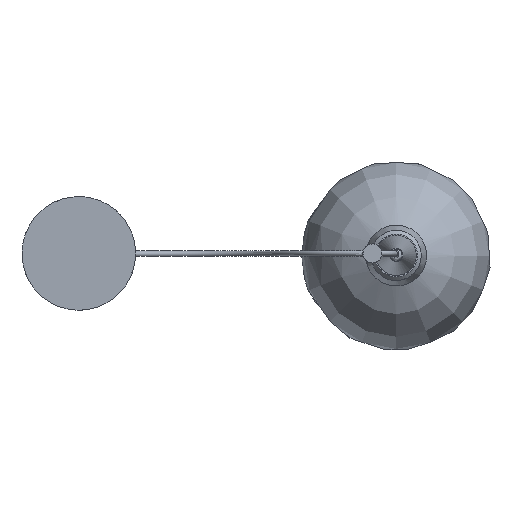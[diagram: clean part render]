
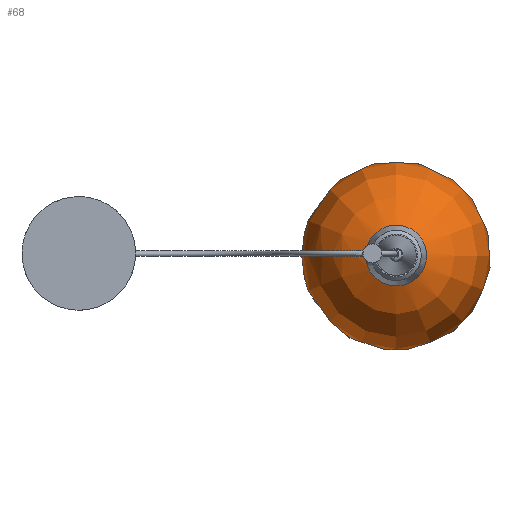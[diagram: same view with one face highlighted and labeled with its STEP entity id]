
A CAD part, top view. The second image highlights one B-rep face of the part: STEP entity #68.
In plain terms, the highlighted free-form (B-spline) face has degree [2, 2] with [5, 9] control points.
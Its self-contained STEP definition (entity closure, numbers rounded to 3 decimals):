
#42=(
BOUNDED_SURFACE()
B_SPLINE_SURFACE(2,2,((#746,#747,#748,#749,#750,#751,#752,#753,#754),(#755,
#756,#757,#758,#759,#760,#761,#762,#763),(#764,#765,#766,#767,#768,#769,
#770,#771,#772),(#773,#774,#775,#776,#777,#778,#779,#780,#781),(#782,#783,
#784,#785,#786,#787,#788,#789,#790)),.UNSPECIFIED.,.F.,.F.,.F.)
B_SPLINE_SURFACE_WITH_KNOTS((3,2,3),(3,2,2,2,3),(-281.447,-140.723,
0.),(0.,157.072,314.144,471.217,628.289),
 .UNSPECIFIED.)
GEOMETRIC_REPRESENTATION_ITEM()
RATIONAL_B_SPLINE_SURFACE(((1.,0.707,1.,0.707,1.,
0.707,1.,0.707,1.),(0.763,0.539,
0.763,0.539,0.763,0.539,
0.763,0.539,0.763),(1.,0.707,
1.,0.707,1.,0.707,1.,0.707,1.),(0.763,
0.539,0.763,0.539,0.763,
0.539,0.763,0.539,0.763),
(1.,0.707,1.,0.707,1.,0.707,1.,0.707,
1.)))
REPRESENTATION_ITEM('')
SURFACE()
);
#68=ADVANCED_FACE('',(#94),#42,.T.);
#94=FACE_OUTER_BOUND('',#120,.T.);
#120=EDGE_LOOP('',(#165,#166,#167));
#165=ORIENTED_EDGE('',*,*,#241,.T.);
#166=ORIENTED_EDGE('',*,*,#237,.F.);
#167=ORIENTED_EDGE('',*,*,#237,.T.);
#237=EDGE_CURVE('',#324,#328,#288,.T.);
#241=EDGE_CURVE('',#328,#328,#290,.T.);
#288=(
BOUNDED_CURVE()
B_SPLINE_CURVE(2,(#859,#860,#861,#862,#863),.UNSPECIFIED.,.F.,.F.)
B_SPLINE_CURVE_WITH_KNOTS((3,2,3),(-281.447,-140.723,
0.),.UNSPECIFIED.)
CURVE()
GEOMETRIC_REPRESENTATION_ITEM()
RATIONAL_B_SPLINE_CURVE((1.,0.763,1.,0.763,1.))
REPRESENTATION_ITEM('')
);
#290=(
BOUNDED_CURVE()
B_SPLINE_CURVE(2,(#873,#874,#875,#876,#877,#878,#879,#880,#881),
 .UNSPECIFIED.,.T.,.F.)
B_SPLINE_CURVE_WITH_KNOTS((3,2,2,2,3),(0.,157.072,314.144,
471.217,628.289),.UNSPECIFIED.)
CURVE()
GEOMETRIC_REPRESENTATION_ITEM()
RATIONAL_B_SPLINE_CURVE((1.,0.707,1.,0.707,1.,0.707,
1.,0.707,1.))
REPRESENTATION_ITEM('')
);
#324=VERTEX_POINT('',#854);
#328=VERTEX_POINT('',#858);
#746=CARTESIAN_POINT('',(-3653.76,-642.283,-316.014));
#747=CARTESIAN_POINT('',(-3653.76,-642.283,-316.014));
#748=CARTESIAN_POINT('',(-3653.76,-642.283,-316.014));
#749=CARTESIAN_POINT('',(-3653.76,-642.283,-316.014));
#750=CARTESIAN_POINT('',(-3653.76,-642.283,-316.014));
#751=CARTESIAN_POINT('',(-3653.76,-642.283,-316.014));
#752=CARTESIAN_POINT('',(-3653.76,-642.283,-316.014));
#753=CARTESIAN_POINT('',(-3653.76,-642.283,-316.014));
#754=CARTESIAN_POINT('',(-3653.76,-642.283,-316.014));
#755=CARTESIAN_POINT('',(-3738.609,-642.283,-316.014));
#756=CARTESIAN_POINT('',(-3738.609,-557.434,-316.014));
#757=CARTESIAN_POINT('',(-3653.76,-557.434,-316.014));
#758=CARTESIAN_POINT('',(-3568.911,-557.434,-316.014));
#759=CARTESIAN_POINT('',(-3568.911,-642.283,-316.014));
#760=CARTESIAN_POINT('',(-3568.911,-727.132,-316.014));
#761=CARTESIAN_POINT('',(-3653.76,-727.132,-316.014));
#762=CARTESIAN_POINT('',(-3738.609,-727.132,-316.014));
#763=CARTESIAN_POINT('',(-3738.609,-642.283,-316.014));
#764=CARTESIAN_POINT('',(-3752.425,-642.283,-232.298));
#765=CARTESIAN_POINT('',(-3752.425,-543.618,-232.298));
#766=CARTESIAN_POINT('',(-3653.76,-543.618,-232.298));
#767=CARTESIAN_POINT('',(-3555.095,-543.618,-232.298));
#768=CARTESIAN_POINT('',(-3555.095,-642.283,-232.298));
#769=CARTESIAN_POINT('',(-3555.095,-740.949,-232.298));
#770=CARTESIAN_POINT('',(-3653.76,-740.949,-232.298));
#771=CARTESIAN_POINT('',(-3752.425,-740.949,-232.298));
#772=CARTESIAN_POINT('',(-3752.425,-642.283,-232.298));
#773=CARTESIAN_POINT('',(-3766.242,-642.283,-148.581));
#774=CARTESIAN_POINT('',(-3766.242,-529.802,-148.581));
#775=CARTESIAN_POINT('',(-3653.76,-529.802,-148.581));
#776=CARTESIAN_POINT('',(-3541.278,-529.802,-148.581));
#777=CARTESIAN_POINT('',(-3541.278,-642.283,-148.581));
#778=CARTESIAN_POINT('',(-3541.278,-754.765,-148.581));
#779=CARTESIAN_POINT('',(-3653.76,-754.765,-148.581));
#780=CARTESIAN_POINT('',(-3766.242,-754.765,-148.581));
#781=CARTESIAN_POINT('',(-3766.242,-642.283,-148.581));
#782=CARTESIAN_POINT('',(-3685.892,-642.283,-121.317));
#783=CARTESIAN_POINT('',(-3685.892,-610.151,-121.317));
#784=CARTESIAN_POINT('',(-3653.76,-610.151,-121.317));
#785=CARTESIAN_POINT('',(-3621.628,-610.151,-121.317));
#786=CARTESIAN_POINT('',(-3621.628,-642.283,-121.317));
#787=CARTESIAN_POINT('',(-3621.628,-674.415,-121.317));
#788=CARTESIAN_POINT('',(-3653.76,-674.415,-121.317));
#789=CARTESIAN_POINT('',(-3685.892,-674.415,-121.317));
#790=CARTESIAN_POINT('',(-3685.892,-642.283,-121.317));
#854=CARTESIAN_POINT('',(-3653.76,-642.283,-316.014));
#858=CARTESIAN_POINT('',(-3685.892,-642.283,-121.317));
#859=CARTESIAN_POINT('',(-3653.76,-642.283,-316.014));
#860=CARTESIAN_POINT('',(-3738.609,-642.283,-316.014));
#861=CARTESIAN_POINT('',(-3752.425,-642.283,-232.298));
#862=CARTESIAN_POINT('',(-3766.242,-642.283,-148.581));
#863=CARTESIAN_POINT('',(-3685.892,-642.283,-121.317));
#873=CARTESIAN_POINT('',(-3685.892,-642.283,-121.317));
#874=CARTESIAN_POINT('',(-3685.892,-610.151,-121.317));
#875=CARTESIAN_POINT('',(-3653.76,-610.151,-121.317));
#876=CARTESIAN_POINT('',(-3621.628,-610.151,-121.317));
#877=CARTESIAN_POINT('',(-3621.628,-642.283,-121.317));
#878=CARTESIAN_POINT('',(-3621.628,-674.415,-121.317));
#879=CARTESIAN_POINT('',(-3653.76,-674.415,-121.317));
#880=CARTESIAN_POINT('',(-3685.892,-674.415,-121.317));
#881=CARTESIAN_POINT('',(-3685.892,-642.283,-121.317));
